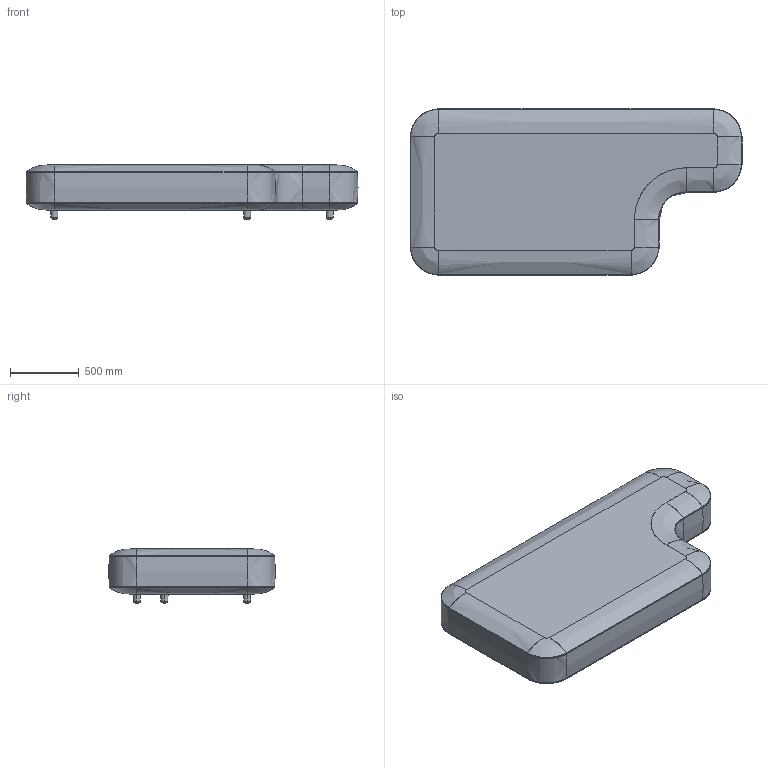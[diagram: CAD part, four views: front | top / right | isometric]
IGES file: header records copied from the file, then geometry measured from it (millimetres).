
Start section: SolidWorks IGES file using analytic representation for surfaces
Global section: file name: C:\Users\Usuario\Dropbox\Viccarbe\ARCHIVOS ENVIAR\3D\Common\1-240x120\IGES\1_modulo tetris grande.IGS; native system: SolidWorks 2013; preprocessor: SolidWorks 2013; author: Usuario; date: 130410.103643; units: millimetre
Bounding box: 2410 x 1210 x 395 mm (x, y, z)
Surface area: 16632923.6 mm2 (no closed solid volume)
Topology: 0 solids, 0 shells, 168 faces, 1797 edges, 1797 vertices
Faces by surface type: bspline 134, revolution 34
